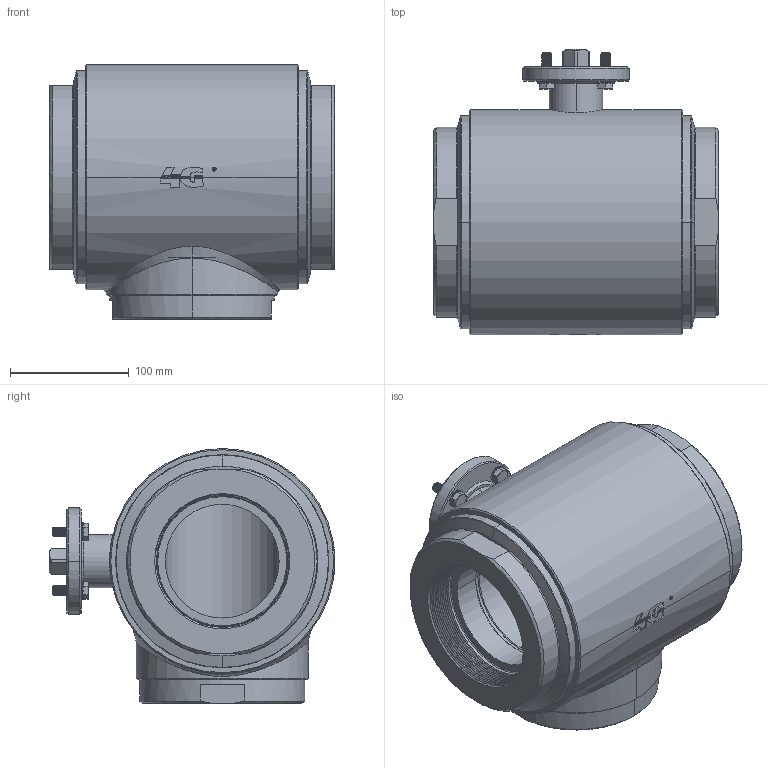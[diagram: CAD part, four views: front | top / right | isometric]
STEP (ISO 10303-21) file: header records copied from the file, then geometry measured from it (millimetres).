
FILE_DESCRIPTION((''),'2;1');
FILE_NAME('35300165410','2017-07-17T',('UFFICIO TECNICO'),('CDM Tecnoconsulting'),'CREO PARAMETRIC BY PTC INC, 2015290','CREO PARAMETRIC BY PTC INC, 2015290','');
FILE_SCHEMA(('CONFIG_CONTROL_DESIGN'));
Products named in the file (1): 35300165410
Bounding box: 240 x 241 x 215 mm (x, y, z)
Surface area: 383913.4 mm2 (no closed solid volume)
Topology: 0 solids, 92 shells, 964 faces, 3218 edges, 2323 vertices
Faces by surface type: cylinder 353, plane 287, cone 146, bspline 84, torus 76, extrusion 17, sphere 1
Entity records: 69139 total; most frequent: CARTESIAN_POINT 43530, ORIENTED_EDGE 5229, DIRECTION 4062, EDGE_CURVE 3213, VERTEX_POINT 2323, B_SPLINE_CURVE_WITH_KNOTS 1536, AXIS2_PLACEMENT_3D 1488, VECTOR 1086
